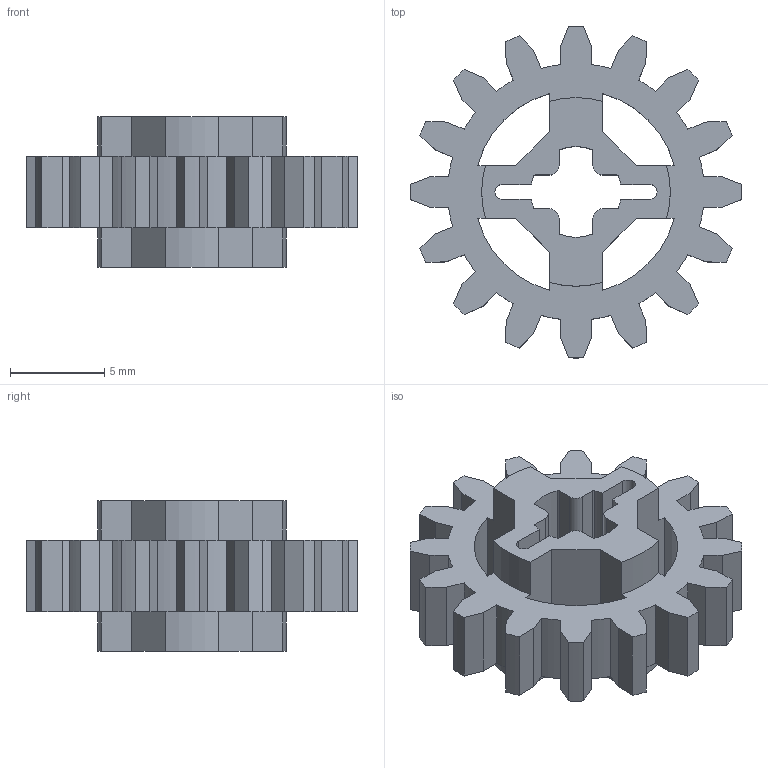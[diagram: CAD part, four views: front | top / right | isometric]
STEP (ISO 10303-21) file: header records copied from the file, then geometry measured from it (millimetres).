
FILE_DESCRIPTION(/* description */ ('Unknown'),/* implementation_level */ '2;1');
FILE_NAME(/* name */ 'ClGray_4640536_JC',/* time_stamp */ '2025-07-21T23:57:58+02:00',/* author */ ('Unknown'),/* organization */ ('Unknown'),/* preprocessor_version */ 'ST-DEVELOPER v19.4',/* originating_system */ 'Solid Edge',/* authorisation */ 'Unknown');
FILE_SCHEMA (('AUTOMOTIVE_DESIGN {1 0 10303 214 3 1 1}'));
Length unit declared in the file: millimetre
Products named in the file (1): ClGray_4640536_JC
Bounding box: 17.6 x 17.6 x 8 mm (x, y, z)
Volume: 688.6 mm3; surface area: 1172.9 mm2
Topology: 1 solids, 1 shells, 156 faces, 480 edges, 320 vertices
Faces by surface type: plane 92, cylinder 64
Entity records: 5422 total; most frequent: ORIENTED_EDGE 960, CARTESIAN_POINT 957, DIRECTION 922, EDGE_CURVE 480, LINE 352, VECTOR 352, VERTEX_POINT 320, AXIS2_PLACEMENT_3D 285
